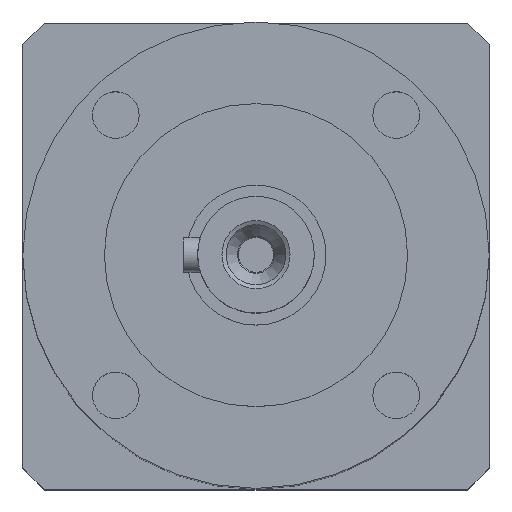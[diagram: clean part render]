
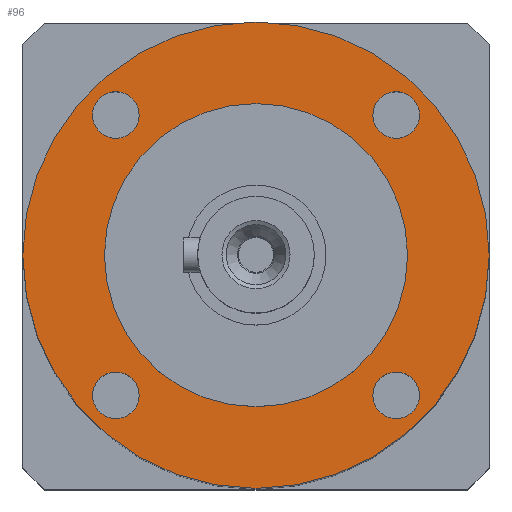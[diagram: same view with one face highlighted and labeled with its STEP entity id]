
A CAD part, top view. The second image highlights one B-rep face of the part: STEP entity #96.
In plain terms, the highlighted planar face has unit normal (0, 0, 1).
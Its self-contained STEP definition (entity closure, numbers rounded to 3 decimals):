
#96=ADVANCED_FACE('',(#218,#219,#220,#221,#222,#223),#284,.F.);
#218=FACE_OUTER_BOUND('',#224,.T.);
#219=FACE_BOUND('',#225,.T.);
#220=FACE_BOUND('',#226,.T.);
#221=FACE_BOUND('',#227,.T.);
#222=FACE_BOUND('',#228,.T.);
#223=FACE_BOUND('',#229,.T.);
#224=EDGE_LOOP('',(#230));
#225=EDGE_LOOP('',(#239));
#226=EDGE_LOOP('',(#248));
#227=EDGE_LOOP('',(#257));
#228=EDGE_LOOP('',(#266));
#229=EDGE_LOOP('',(#275));
#230=ORIENTED_EDGE('',*,*,#231,.T.);
#231=EDGE_CURVE('',#237,#237,#232,.T.);
#232=CIRCLE('',#233,2.);
#233=AXIS2_PLACEMENT_3D('',#234,#235,#236);
#234=CARTESIAN_POINT('',(-12.021,-12.021,
   52.));
#235=DIRECTION('',(0.,0.,-1.));
#236=DIRECTION('',(-1.,0.,0.));
#237=VERTEX_POINT('',#238);
#238=CARTESIAN_POINT('',(-14.021,-12.021,
   52.));
#239=ORIENTED_EDGE('',*,*,#240,.T.);
#240=EDGE_CURVE('',#246,#246,#241,.T.);
#241=CIRCLE('',#242,2.);
#242=AXIS2_PLACEMENT_3D('',#243,#244,#245);
#243=CARTESIAN_POINT('',(12.021,12.021,
   52.));
#244=DIRECTION('',(0.,0.,-1.));
#245=DIRECTION('',(1.,0.,0.));
#246=VERTEX_POINT('',#247);
#247=CARTESIAN_POINT('',(14.021,12.021,
   52.));
#248=ORIENTED_EDGE('',*,*,#249,.T.);
#249=EDGE_CURVE('',#255,#255,#250,.T.);
#250=CIRCLE('',#251,13.);
#251=AXIS2_PLACEMENT_3D('',#252,#253,#254);
#252=CARTESIAN_POINT('',(0.,0.,52.));
#253=DIRECTION('',(0.,0.,-1.));
#254=DIRECTION('',(1.,0.,0.));
#255=VERTEX_POINT('',#256);
#256=CARTESIAN_POINT('',(13.,0.,52.));
#257=ORIENTED_EDGE('',*,*,#258,.F.);
#258=EDGE_CURVE('',#264,#264,#259,.T.);
#259=CIRCLE('',#260,20.);
#260=AXIS2_PLACEMENT_3D('',#261,#262,#263);
#261=CARTESIAN_POINT('',(0.,0.,52.));
#262=DIRECTION('',(0.,0.,-1.));
#263=DIRECTION('',(0.,1.,0.));
#264=VERTEX_POINT('',#265);
#265=CARTESIAN_POINT('',(0.,20.,52.));
#266=ORIENTED_EDGE('',*,*,#267,.T.);
#267=EDGE_CURVE('',#273,#273,#268,.T.);
#268=CIRCLE('',#269,2.);
#269=AXIS2_PLACEMENT_3D('',#270,#271,#272);
#270=CARTESIAN_POINT('',(12.021,-12.021,
   52.));
#271=DIRECTION('',(0.,0.,-1.));
#272=DIRECTION('',(0.,-1.,0.));
#273=VERTEX_POINT('',#274);
#274=CARTESIAN_POINT('',(12.021,-14.021,
   52.));
#275=ORIENTED_EDGE('',*,*,#276,.T.);
#276=EDGE_CURVE('',#282,#282,#277,.T.);
#277=CIRCLE('',#278,2.);
#278=AXIS2_PLACEMENT_3D('',#279,#280,#281);
#279=CARTESIAN_POINT('',(-12.021,12.021,
   52.));
#280=DIRECTION('',(0.,0.,-1.));
#281=DIRECTION('',(0.,1.,0.));
#282=VERTEX_POINT('',#283);
#283=CARTESIAN_POINT('',(-12.021,14.021,
   52.));
#284=PLANE('',#285);
#285=AXIS2_PLACEMENT_3D('',#286,#287,#288);
#286=CARTESIAN_POINT('',(0.,0.,52.));
#287=DIRECTION('',(0.,0.,-1.));
#288=DIRECTION('',(-1.,0.,0.));
